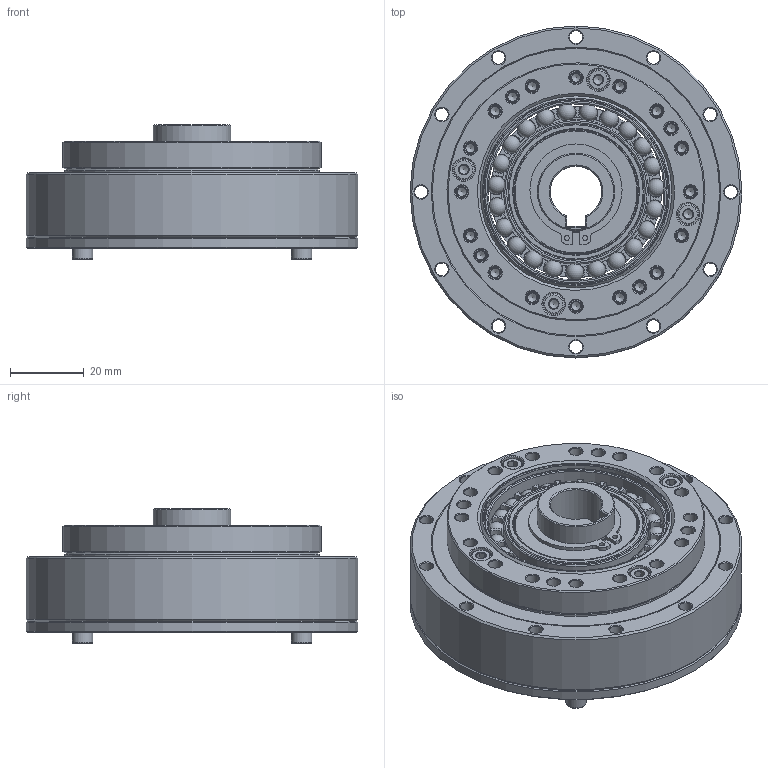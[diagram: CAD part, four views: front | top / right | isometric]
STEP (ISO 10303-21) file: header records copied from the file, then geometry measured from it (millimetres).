
FILE_DESCRIPTION(/* description */ (''),/* implementation_level */ '2;1');
FILE_NAME(/* name */ 'LHG-20-XX-U-II-φ14.stp',/* time_stamp */ '2023-07-08T16:10:29+08:00',/* author */ (''),/* organization */ (''),/* preprocessor_version */ 'ST-DEVELOPER v16.7',/* originating_system */ 'SIEMENS PLM Software NX 12.0',/* authorisation */ '');
FILE_SCHEMA (('AUTOMOTIVE_DESIGN { 1 0 10303 214 3 1 1 1 }'));
Length unit declared in the file: millimetre
Products named in the file (17): EB375007-20KC-46; EB375007-20KE-01; TC-69x78x5; O-75x1.5; O-55x0.5; GB-T70.1-2000,M3x8; GB-T70.1-2000,M3x10; 轴用弹性挡圈φ21; 铜垫圈21.5x33.5x1; CSG-20-00-02; CSG-20-00-01-K14; CS-20-XX-03; 柔轮LHT-20; 刚轮LHT-20; EB375007-20KE; 交叉轴承LHT-20; LHG-20-XX-U-II-φ14
Assembly tree (22 placements, depth 3):
  LHG-20-XX-U-II-φ14
    交叉轴承LHT-20
      TC-69x78x5
    刚轮LHT-20
    柔轮LHT-20
    EB375007-20KE
      EB375007-20KE-01
      EB375007-20KC-46
    CS-20-XX-03
    CSG-20-00-01-K14
    CSG-20-00-02
    铜垫圈21.5x33.5x1
    轴用弹性挡圈φ21
    GB-T70.1-2000,M3x10  x4
    GB-T70.1-2000,M3x8  x4
    O-55x0.5
    O-75x1.5
Bounding box: 90 x 90 x 36.5 mm (x, y, z)
Volume: 99705.2 mm3; surface area: 85099.5 mm2
Topology: 46 solids, 46 shells, 952 faces, 2286 edges, 1407 vertices
Faces by surface type: plane 320, cone 288, cylinder 229, torus 90, sphere 23, revolution 2
Full cylindrical faces by diameter (mm): 1.4 x2, 2.5 x32, 2.874 x8, 3.5 x56, 5.5 x8, 6 x4, 20 x1, 21 x2, 21.5 x1, 22 x2, 33.5 x1, 34 x1, 35 x2, 37 x2, 39.25 x2, 40.64 x1, 44 x1, 46.36 x1, 47.79 x2, 50 x2, 50.71 x1, 51.865 x1, 52.063 x1, 55 x2, 56.4 x1, 63.3 x1, 68.6 x1, 69 x2, 70 x2, 70.1 x2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
Entity records: 22412 total; most frequent: CARTESIAN_POINT 4985, DIRECTION 3708, ORIENTED_EDGE 2766, AXIS2_PLACEMENT_3D 1658, EDGE_CURVE 1383, EDGE_LOOP 1320, VERTEX_POINT 1122, FACE_BOUND 1057
